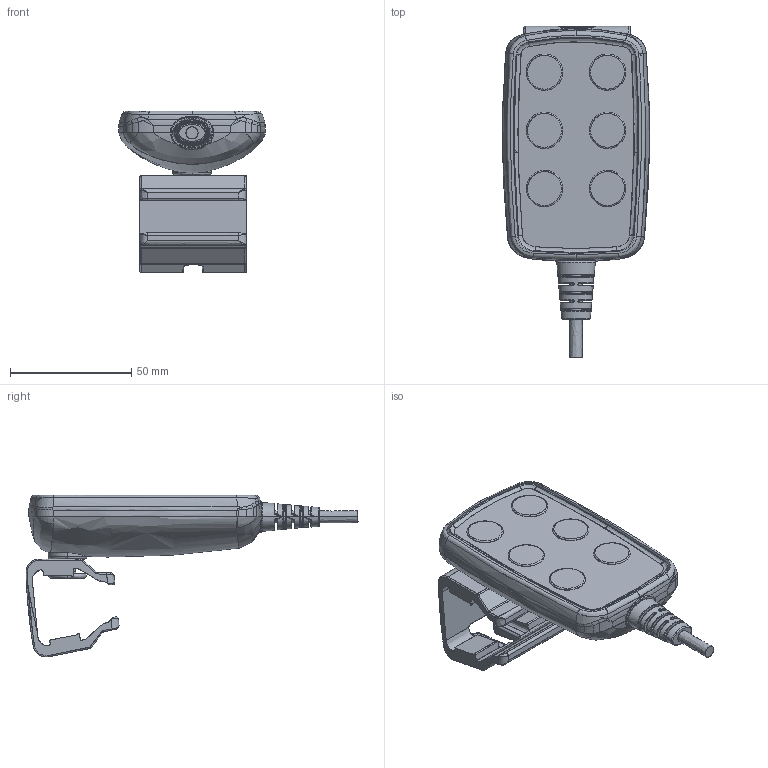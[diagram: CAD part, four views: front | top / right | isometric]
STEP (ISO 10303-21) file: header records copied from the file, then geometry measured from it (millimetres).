
FILE_DESCRIPTION(/* description */ (''),/* implementation_level */ '2;1');
FILE_NAME(/* name */ 'TH24',/* time_stamp */ '2015-03-02T17:30:58+08:00',/* author */ (''),/* organization */ (''),/* preprocessor_version */ 'ST-DEVELOPER v15',/* originating_system */ '',/* authorisation */ '');
FILE_SCHEMA (('AUTOMOTIVE_DESIGN_CC2'));
Length unit declared in the file: millimetre
Products named in the file (1): Document
Bounding box: 60.62 x 136.99 x 66.76 mm (x, y, z)
Surface area: 41741 mm2 (no closed solid volume)
Topology: 0 solids, 640 shells, 640 faces, 1714 edges, 1700 vertices
Faces by surface type: bspline 640
Entity records: 81961 total; most frequent: CARTESIAN_POINT 60052, B_SPLINE_CURVE_WITH_KNOTS 2515, ORIENTED_EDGE 1700, PCURVE 1700, DEFINITIONAL_REPRESENTATION 1700, SURFACE_CURVE 1700, EDGE_CURVE 1700, VERTEX_POINT 1700
